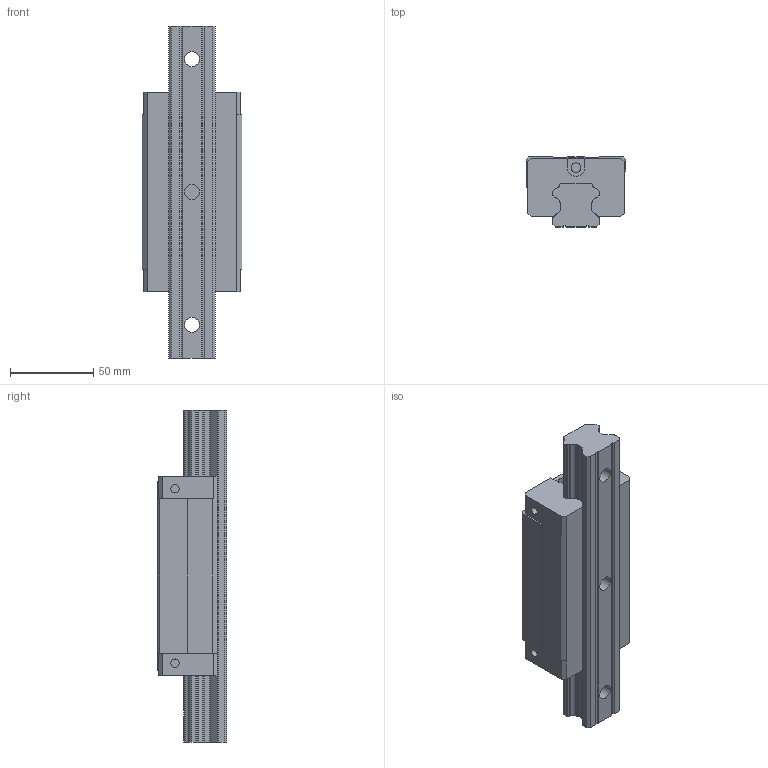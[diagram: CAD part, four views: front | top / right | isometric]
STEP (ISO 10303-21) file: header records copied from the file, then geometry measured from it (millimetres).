
FILE_DESCRIPTION((''),'2;1');
FILE_NAME('HGL30HA_ASM','2008-07-11T',('immo'),(''),'PRO/ENGINEER BY PARAMETRIC TECHNOLOGY CORPORATION, 2004360','PRO/ENGINEER BY PARAMETRIC TECHNOLOGY CORPORATION, 2004360','');
FILE_SCHEMA(('CONFIG_CONTROL_DESIGN'));
Length unit declared in the file: millimetre
Products named in the file (6): HGH30_1; HGR30_1; HGH30_ASM_2_ASM_ASM_ASM; HGH30H_ASM_ASM_ASM; HGL30H_ASM_ASM; HGL30HA_ASM
Assembly tree (5 placements, depth 5):
  HGL30HA_ASM
    HGL30H_ASM_ASM
      HGH30H_ASM_ASM_ASM
        HGH30_ASM_2_ASM_ASM_ASM
          HGH30_1
          HGR30_1
Bounding box: 60 x 42 x 200 mm (x, y, z)
Volume: 309526.6 mm3; surface area: 58660.2 mm2
Topology: 2 solids, 2 shells, 205 faces, 620 edges, 436 vertices
Faces by surface type: plane 119, cylinder 86
Entity records: 7274 total; most frequent: CARTESIAN_POINT 1276, DIRECTION 1240, ORIENTED_EDGE 1240, EDGE_CURVE 620, VECTOR 440, LINE 440, VERTEX_POINT 436, AXIS2_PLACEMENT_3D 400
